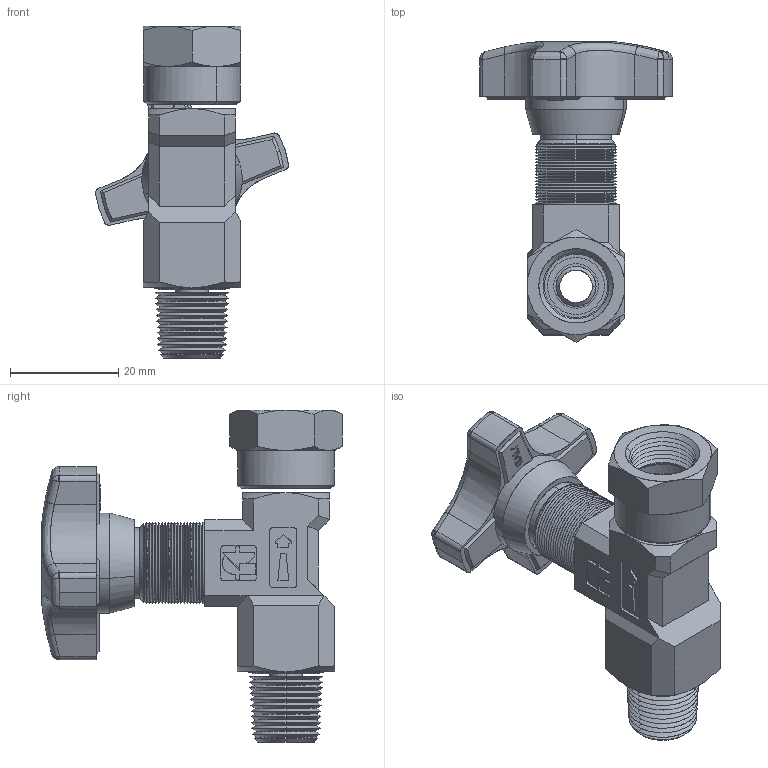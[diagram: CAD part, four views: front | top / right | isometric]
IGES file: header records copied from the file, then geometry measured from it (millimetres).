
Start section: SolidWorks IGES file using analytic representation for surfaces
Global section: file name: C:\Users\PC-Te25\Desktop\ASSIEME 290-14 M-F IGES.IGS; native system: SolidWorks 2023; preprocessor: SolidWorks 2023; author: pc-te25; date: 231016.161231; units: millimetre
Bounding box: 35.59 x 55.47 x 61.26 mm (x, y, z)
Surface area: 9733.9 mm2 (no closed solid volume)
Topology: 0 solids, 0 shells, 557 faces, 4055 edges, 4051 vertices
Faces by surface type: bspline 312, revolution 245
